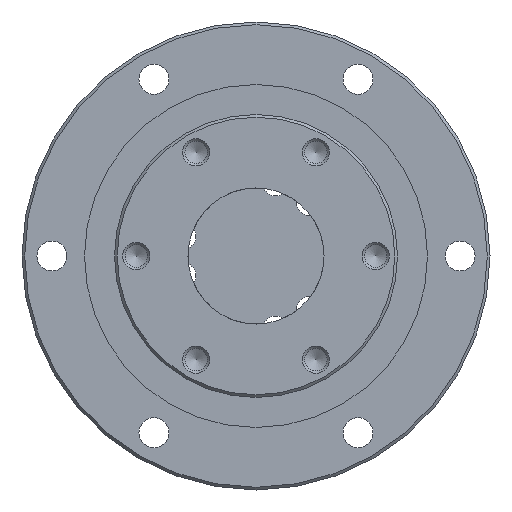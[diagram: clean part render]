
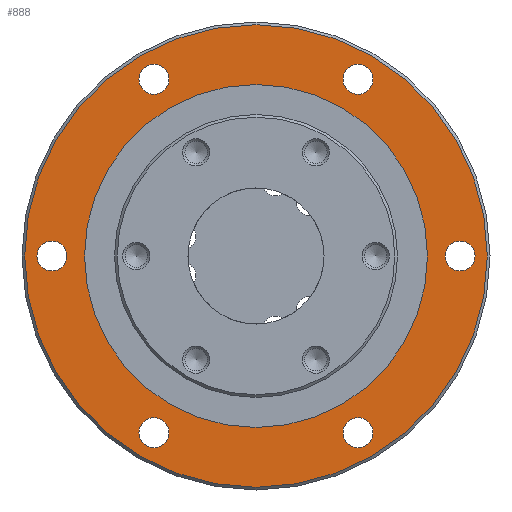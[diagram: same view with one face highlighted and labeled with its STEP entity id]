
A CAD part, left-side view. The second image highlights one B-rep face of the part: STEP entity #888.
In plain terms, the highlighted planar face has unit normal (-1, 0, 0).
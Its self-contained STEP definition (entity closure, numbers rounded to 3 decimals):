
#65=PLANE('',#1021);
#188=ORIENTED_EDGE('',*,*,#340,.F.);
#189=ORIENTED_EDGE('',*,*,#341,.F.);
#190=ORIENTED_EDGE('',*,*,#342,.F.);
#191=ORIENTED_EDGE('',*,*,#343,.F.);
#192=ORIENTED_EDGE('',*,*,#344,.F.);
#193=ORIENTED_EDGE('',*,*,#345,.F.);
#194=ORIENTED_EDGE('',*,*,#346,.F.);
#195=ORIENTED_EDGE('',*,*,#339,.T.);
#339=EDGE_CURVE('',#423,#423,#512,.T.);
#340=EDGE_CURVE('',#424,#424,#513,.T.);
#341=EDGE_CURVE('',#425,#425,#514,.F.);
#342=EDGE_CURVE('',#426,#426,#515,.F.);
#343=EDGE_CURVE('',#427,#427,#516,.F.);
#344=EDGE_CURVE('',#428,#428,#517,.F.);
#345=EDGE_CURVE('',#429,#429,#518,.F.);
#346=EDGE_CURVE('',#430,#430,#519,.F.);
#423=VERTEX_POINT('',#1561);
#424=VERTEX_POINT('',#1564);
#425=VERTEX_POINT('',#1566);
#426=VERTEX_POINT('',#1568);
#427=VERTEX_POINT('',#1570);
#428=VERTEX_POINT('',#1572);
#429=VERTEX_POINT('',#1574);
#430=VERTEX_POINT('',#1576);
#512=CIRCLE('',#1020,31.515);
#513=CIRCLE('',#1022,42.5);
#514=CIRCLE('',#1023,2.75);
#515=CIRCLE('',#1024,2.75);
#516=CIRCLE('',#1025,2.75);
#517=CIRCLE('',#1026,2.75);
#518=CIRCLE('',#1027,2.75);
#519=CIRCLE('',#1028,2.75);
#591=EDGE_LOOP('',(#188));
#592=EDGE_LOOP('',(#189));
#593=EDGE_LOOP('',(#190));
#594=EDGE_LOOP('',(#191));
#595=EDGE_LOOP('',(#192));
#596=EDGE_LOOP('',(#193));
#597=EDGE_LOOP('',(#194));
#598=EDGE_LOOP('',(#195));
#725=FACE_BOUND('',#591,.T.);
#726=FACE_BOUND('',#592,.T.);
#727=FACE_BOUND('',#593,.T.);
#728=FACE_BOUND('',#594,.T.);
#729=FACE_BOUND('',#595,.T.);
#730=FACE_BOUND('',#596,.T.);
#731=FACE_BOUND('',#597,.T.);
#732=FACE_BOUND('',#598,.T.);
#888=ADVANCED_FACE('',(#725,#726,#727,#728,#729,#730,#731,#732),#65,.F.);
#1020=AXIS2_PLACEMENT_3D('',#1560,#1246,#1247);
#1021=AXIS2_PLACEMENT_3D('',#1562,#1248,#1249);
#1022=AXIS2_PLACEMENT_3D('',#1563,#1250,#1251);
#1023=AXIS2_PLACEMENT_3D('',#1565,#1252,#1253);
#1024=AXIS2_PLACEMENT_3D('',#1567,#1254,#1255);
#1025=AXIS2_PLACEMENT_3D('',#1569,#1256,#1257);
#1026=AXIS2_PLACEMENT_3D('',#1571,#1258,#1259);
#1027=AXIS2_PLACEMENT_3D('',#1573,#1260,#1261);
#1028=AXIS2_PLACEMENT_3D('',#1575,#1262,#1263);
#1246=DIRECTION('',(1.,0.,0.));
#1247=DIRECTION('',(0.,0.,-1.));
#1248=DIRECTION('',(1.,0.,0.));
#1249=DIRECTION('',(0.,0.,-1.));
#1250=DIRECTION('',(1.,0.,0.));
#1251=DIRECTION('',(0.,0.,-1.));
#1252=DIRECTION('',(1.,0.,0.));
#1253=DIRECTION('',(0.,0.,-1.));
#1254=DIRECTION('',(1.,0.,0.));
#1255=DIRECTION('',(0.,0.,-1.));
#1256=DIRECTION('',(1.,0.,0.));
#1257=DIRECTION('',(0.,0.,-1.));
#1258=DIRECTION('',(1.,0.,0.));
#1259=DIRECTION('',(0.,0.,-1.));
#1260=DIRECTION('',(1.,0.,0.));
#1261=DIRECTION('',(0.,0.,-1.));
#1262=DIRECTION('',(1.,0.,0.));
#1263=DIRECTION('',(0.,0.,-1.));
#1560=CARTESIAN_POINT('',(13.,0.,0.));
#1561=CARTESIAN_POINT('',(13.,0.,-31.515));
#1562=CARTESIAN_POINT('',(13.,31.515,0.));
#1563=CARTESIAN_POINT('',(13.,0.,0.));
#1564=CARTESIAN_POINT('',(13.,0.,-42.5));
#1565=CARTESIAN_POINT('',(13.,37.5,0.));
#1566=CARTESIAN_POINT('',(13.,37.5,-2.75));
#1567=CARTESIAN_POINT('',(13.,18.75,-32.476));
#1568=CARTESIAN_POINT('',(13.,18.75,-35.226));
#1569=CARTESIAN_POINT('',(13.,-18.75,-32.476));
#1570=CARTESIAN_POINT('',(13.,-18.75,-35.226));
#1571=CARTESIAN_POINT('',(13.,-37.5,0.));
#1572=CARTESIAN_POINT('',(13.,-37.5,-2.75));
#1573=CARTESIAN_POINT('',(13.,-18.75,32.476));
#1574=CARTESIAN_POINT('',(13.,-18.75,29.726));
#1575=CARTESIAN_POINT('',(13.,18.75,32.476));
#1576=CARTESIAN_POINT('',(13.,18.75,29.726));
